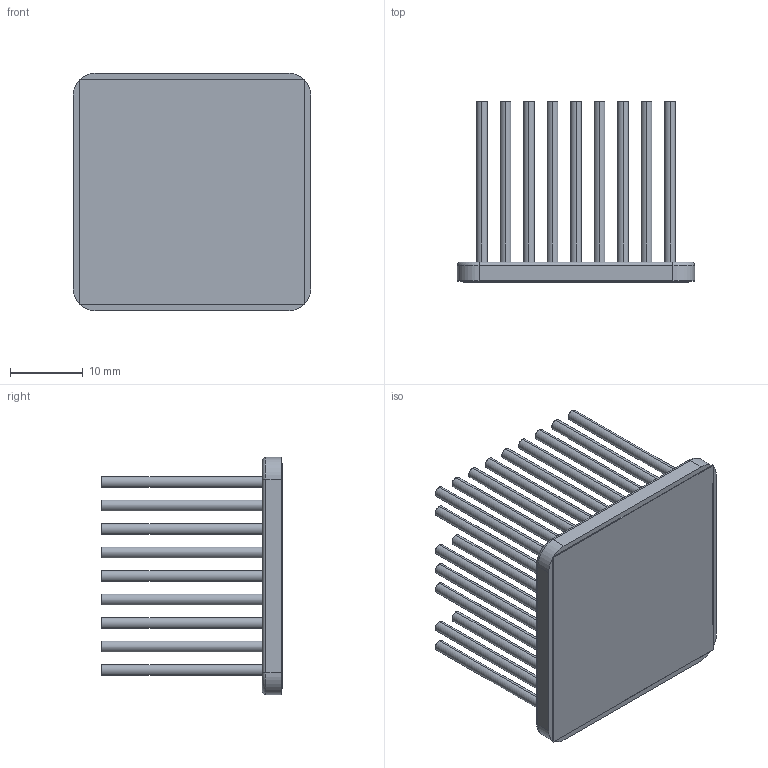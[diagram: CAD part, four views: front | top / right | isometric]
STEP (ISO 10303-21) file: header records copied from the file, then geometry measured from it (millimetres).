
FILE_DESCRIPTION (( 'STEP AP214' ), '1' );
FILE_NAME ('INM33002-25P-2.6.STEP', '2023-02-20T20:01:12', ( '' ), ( '' ), 'SwSTEP 2.0', 'SolidWorks 2020', '' );
FILE_SCHEMA (( 'AUTOMOTIVE_DESIGN' ));
Length unit declared in the file: inch
Products named in the file (1): INM33002-25P-2.6
Bounding box: 32.6 x 24.73 x 32.6 mm (x, y, z)
Volume: 5696.3 mm3; surface area: 11914.1 mm2
Topology: 2 solids, 2 shells, 243 faces, 490 edges, 324 vertices
Faces by surface type: cylinder 154, plane 85, torus 4
Entity records: 9702 total; most frequent: DIRECTION 1290, CARTESIAN_POINT 1058, ORIENTED_EDGE 980, AXIS2_PLACEMENT_3D 556, EDGE_CURVE 490, VERTEX_POINT 324, EDGE_LOOP 316, CIRCLE 312
